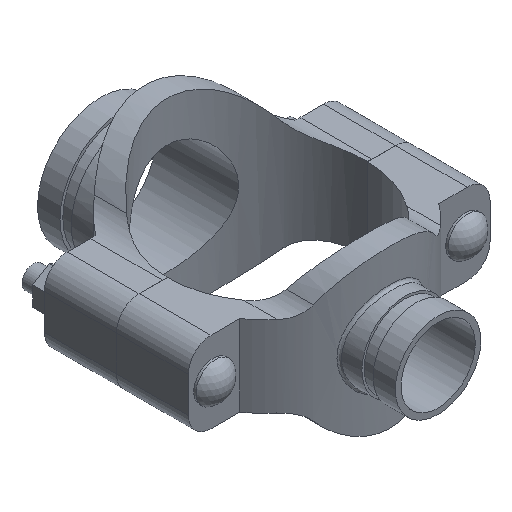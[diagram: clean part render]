
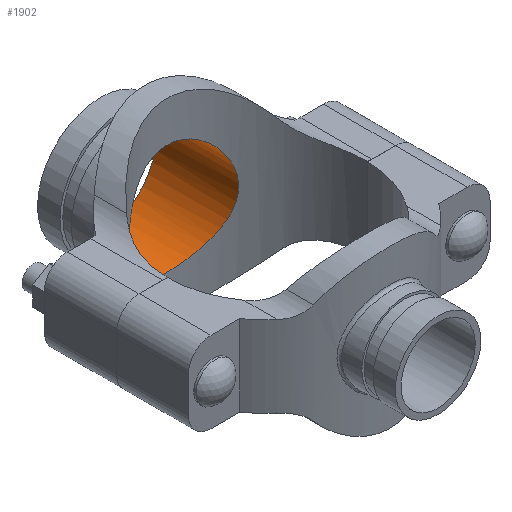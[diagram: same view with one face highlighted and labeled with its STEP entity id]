
A CAD part, isometric view. The second image highlights one B-rep face of the part: STEP entity #1902.
In plain terms, the highlighted cylindrical face has radius 38.894 mm (diameter 77.787 mm), a full revolution.
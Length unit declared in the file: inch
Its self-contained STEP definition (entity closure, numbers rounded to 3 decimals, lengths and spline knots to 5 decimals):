
#33=B_SPLINE_CURVE_WITH_KNOTS('',3,(#3236,#3237,#3238,#3239,#3240,#3241,
#3242,#3243,#3244,#3245,#3246,#3247,#3248,#3249,#3250,#3251,#3252,#3253,
#3254,#3255,#3256,#3257,#3258,#3259,#3260,#3261,#3262,#3263,#3264,#3265,
#3266,#3267,#3268,#3269,#3270,#3271,#3272,#3273,#3274,#3275,#3276,#3277,
#3278,#3279,#3280,#3281,#3282,#3283,#3284,#3285,#3286,#3287,#3288,#3289,
#3290,#3291,#3292,#3293,#3294,#3295,#3296,#3297,#3298,#3299,#3300,#3301),
 .UNSPECIFIED.,.T.,.F.,(4,2,2,2,2,2,2,2,2,2,2,2,2,2,2,2,2,2,2,2,2,2,2,2,
2,2,2,2,2,2,2,2,4),(0.,0.75292,1.50585,2.25877,
3.01169,3.76141,4.51112,5.26084,6.01055,
6.76027,7.50998,8.2597,9.00941,9.76233,
10.51526,11.26818,12.0211,12.77403,13.52695,
14.27988,15.0328,15.78251,16.53223,17.28194,
18.03166,18.78137,19.53109,20.2808,21.03051,
21.78344,22.53636,23.28928,24.04221),
 .UNSPECIFIED.);
#71=CYLINDRICAL_SURFACE('',#2098,1.53125);
#168=FACE_OUTER_BOUND('',#279,.T.);
#279=EDGE_LOOP('',(#1348,#1349,#1350,#1351));
#422=LINE('',#3235,#568);
#568=VECTOR('',#2426,1.53125);
#683=CIRCLE('',#2099,1.53125);
#810=VERTEX_POINT('',#3232);
#811=VERTEX_POINT('',#3234);
#1016=EDGE_CURVE('',#810,#810,#683,.T.);
#1017=EDGE_CURVE('',#810,#811,#422,.T.);
#1018=EDGE_CURVE('',#811,#811,#33,.T.);
#1348=ORIENTED_EDGE('',*,*,#1016,.F.);
#1349=ORIENTED_EDGE('',*,*,#1017,.T.);
#1350=ORIENTED_EDGE('',*,*,#1018,.F.);
#1351=ORIENTED_EDGE('',*,*,#1017,.F.);
#1902=ADVANCED_FACE('',(#168),#71,.F.);
#2098=AXIS2_PLACEMENT_3D('',#3231,#2422,#2423);
#2099=AXIS2_PLACEMENT_3D('',#3233,#2424,#2425);
#2422=DIRECTION('center_axis',(0.,-1.,0.));
#2423=DIRECTION('ref_axis',(-1.,0.,0.));
#2424=DIRECTION('center_axis',(0.,-1.,0.));
#2425=DIRECTION('ref_axis',(-1.,0.,0.));
#2426=DIRECTION('',(0.,-1.,0.));
#3231=CARTESIAN_POINT('Origin',(0.,4.63,0.));
#3232=CARTESIAN_POINT('',(1.53125,4.63,0.));
#3233=CARTESIAN_POINT('Origin',(0.,4.63,0.));
#3234=CARTESIAN_POINT('',(1.53125,2.32207,0.));
#3235=CARTESIAN_POINT('',(1.53125,4.63,0.));
#3236=CARTESIAN_POINT('Ctrl Pts',(1.53125,2.32207,0.));
#3237=CARTESIAN_POINT('Ctrl Pts',(1.53125,2.32207,-0.09881));
#3238=CARTESIAN_POINT('Ctrl Pts',(1.52154,2.32857,-0.20002));
#3239=CARTESIAN_POINT('Ctrl Pts',(1.48167,2.35414,-0.39969));
#3240=CARTESIAN_POINT('Ctrl Pts',(1.45153,2.37316,-0.49815));
#3241=CARTESIAN_POINT('Ctrl Pts',(1.37285,2.41953,-0.68583));
#3242=CARTESIAN_POINT('Ctrl Pts',(1.32426,2.44684,-0.77524));
#3243=CARTESIAN_POINT('Ctrl Pts',(1.21269,2.50401,-0.94023));
#3244=CARTESIAN_POINT('Ctrl Pts',(1.1497,2.53381,-1.01581));
#3245=CARTESIAN_POINT('Ctrl Pts',(1.0161,2.59027,-1.14942));
#3246=CARTESIAN_POINT('Ctrl Pts',(0.94066,2.61905,-1.21236));
#3247=CARTESIAN_POINT('Ctrl Pts',(0.77562,2.67258,-1.32404));
#3248=CARTESIAN_POINT('Ctrl Pts',(0.68601,2.69729,-1.37278));
#3249=CARTESIAN_POINT('Ctrl Pts',(0.49791,2.73826,-1.45162));
#3250=CARTESIAN_POINT('Ctrl Pts',(0.39923,2.75453,-1.48179));
#3251=CARTESIAN_POINT('Ctrl Pts',(0.19947,2.77616,-1.52161));
#3252=CARTESIAN_POINT('Ctrl Pts',(0.09839,2.7815,-1.53125));
#3253=CARTESIAN_POINT('Ctrl Pts',(-0.09839,2.7815,-1.53125));
#3254=CARTESIAN_POINT('Ctrl Pts',(-0.19947,2.77616,-1.52161));
#3255=CARTESIAN_POINT('Ctrl Pts',(-0.39923,2.75453,-1.48179));
#3256=CARTESIAN_POINT('Ctrl Pts',(-0.49791,2.73826,-1.45162));
#3257=CARTESIAN_POINT('Ctrl Pts',(-0.68601,2.69729,-1.37278));
#3258=CARTESIAN_POINT('Ctrl Pts',(-0.77562,2.67258,-1.32404));
#3259=CARTESIAN_POINT('Ctrl Pts',(-0.94066,2.61905,-1.21236));
#3260=CARTESIAN_POINT('Ctrl Pts',(-1.0161,2.59027,-1.14942));
#3261=CARTESIAN_POINT('Ctrl Pts',(-1.1497,2.53381,-1.01581));
#3262=CARTESIAN_POINT('Ctrl Pts',(-1.21269,2.50401,-0.94023));
#3263=CARTESIAN_POINT('Ctrl Pts',(-1.32426,2.44684,-0.77524));
#3264=CARTESIAN_POINT('Ctrl Pts',(-1.37285,2.41953,-0.68583));
#3265=CARTESIAN_POINT('Ctrl Pts',(-1.45153,2.37316,-0.49815));
#3266=CARTESIAN_POINT('Ctrl Pts',(-1.48167,2.35414,-0.39969));
#3267=CARTESIAN_POINT('Ctrl Pts',(-1.52154,2.32857,-0.20002));
#3268=CARTESIAN_POINT('Ctrl Pts',(-1.53125,2.32207,-0.09881));
#3269=CARTESIAN_POINT('Ctrl Pts',(-1.53125,2.32207,0.09881));
#3270=CARTESIAN_POINT('Ctrl Pts',(-1.52154,2.32857,0.20002));
#3271=CARTESIAN_POINT('Ctrl Pts',(-1.48167,2.35414,0.39969));
#3272=CARTESIAN_POINT('Ctrl Pts',(-1.45153,2.37316,0.49815));
#3273=CARTESIAN_POINT('Ctrl Pts',(-1.37285,2.41953,0.68583));
#3274=CARTESIAN_POINT('Ctrl Pts',(-1.32426,2.44684,0.77524));
#3275=CARTESIAN_POINT('Ctrl Pts',(-1.21269,2.50401,0.94023));
#3276=CARTESIAN_POINT('Ctrl Pts',(-1.1497,2.53381,1.01581));
#3277=CARTESIAN_POINT('Ctrl Pts',(-1.0161,2.59027,1.14942));
#3278=CARTESIAN_POINT('Ctrl Pts',(-0.94066,2.61905,1.21236));
#3279=CARTESIAN_POINT('Ctrl Pts',(-0.77562,2.67258,1.32404));
#3280=CARTESIAN_POINT('Ctrl Pts',(-0.68601,2.69729,1.37278));
#3281=CARTESIAN_POINT('Ctrl Pts',(-0.49791,2.73826,1.45162));
#3282=CARTESIAN_POINT('Ctrl Pts',(-0.39923,2.75453,1.48179));
#3283=CARTESIAN_POINT('Ctrl Pts',(-0.19947,2.77616,1.52161));
#3284=CARTESIAN_POINT('Ctrl Pts',(-0.09839,2.7815,1.53125));
#3285=CARTESIAN_POINT('Ctrl Pts',(0.09839,2.7815,1.53125));
#3286=CARTESIAN_POINT('Ctrl Pts',(0.19947,2.77616,1.52161));
#3287=CARTESIAN_POINT('Ctrl Pts',(0.39923,2.75453,1.48179));
#3288=CARTESIAN_POINT('Ctrl Pts',(0.49791,2.73826,1.45162));
#3289=CARTESIAN_POINT('Ctrl Pts',(0.68601,2.69729,1.37278));
#3290=CARTESIAN_POINT('Ctrl Pts',(0.77562,2.67258,1.32404));
#3291=CARTESIAN_POINT('Ctrl Pts',(0.94066,2.61905,1.21236));
#3292=CARTESIAN_POINT('Ctrl Pts',(1.0161,2.59027,1.14942));
#3293=CARTESIAN_POINT('Ctrl Pts',(1.1497,2.53381,1.01581));
#3294=CARTESIAN_POINT('Ctrl Pts',(1.21269,2.50401,0.94023));
#3295=CARTESIAN_POINT('Ctrl Pts',(1.32426,2.44684,0.77524));
#3296=CARTESIAN_POINT('Ctrl Pts',(1.37285,2.41953,0.68583));
#3297=CARTESIAN_POINT('Ctrl Pts',(1.45153,2.37316,0.49815));
#3298=CARTESIAN_POINT('Ctrl Pts',(1.48167,2.35414,0.39969));
#3299=CARTESIAN_POINT('Ctrl Pts',(1.52154,2.32857,0.20002));
#3300=CARTESIAN_POINT('Ctrl Pts',(1.53125,2.32207,0.09881));
#3301=CARTESIAN_POINT('Ctrl Pts',(1.53125,2.32207,0.));
